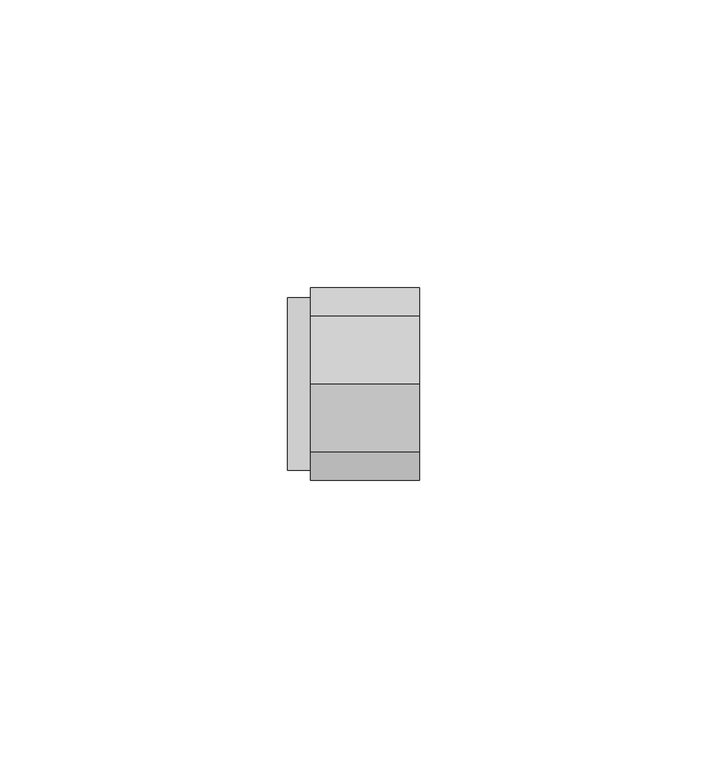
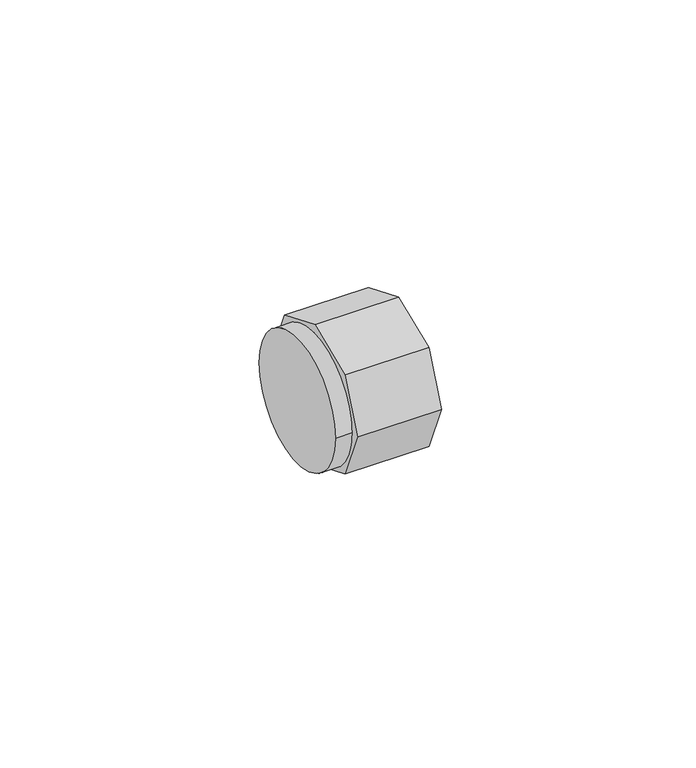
"""IFC4 building model written with IfcOpenShell, lengths in millimetres: pipe fitting geometry, REHAU_RAUTITAN_Cap_RX+ : REHAU_RAUTITAN_Cap_RX+."""

import ifcopenshell
import ifcopenshell.guid

model = None  # the IFC model being written
_history = None  # IfcOwnerHistory: only IFC2X3 demands one
_inside = {}  # id of a spatial element -> (the spatial element, [elements in it])
_under = {}  # id of a project, library or spatial element -> (it, [spatial elements below it])
_declared = {}  # id of a project -> (the project, [libraries it declares])
_typed = {}  # id of a type object -> (the type object, [elements of that type])
_made_of = {}  # id of a material, layer set ... -> (it, [elements and type objects made of it])


def new_model(schema):
    """Start an empty IFC model of exactly this schema.

    Asked for "IFC4X3", IfcOpenShell would pick the latest addendum, in which some entities
    have other attributes; the version numbers below select the first issue.
    IFC2X3 requires an IfcOwnerHistory on every rooted entity: one is made here for all.
    """
    global model, _history
    if schema == "IFC4X3":
        model = ifcopenshell.file(schema_version=(4, 3, 0, 0))
    else:
        model = ifcopenshell.file(schema=schema)
    _inside.clear()
    _under.clear()
    _declared.clear()
    _typed.clear()
    _made_of.clear()
    _history = None
    if model.schema == "IFC2X3":
        org = make("IfcOrganization", Name="unknown")
        user = make(
            "IfcPersonAndOrganization",
            ThePerson=make("IfcPerson", FamilyName="unknown"),
            TheOrganization=org,
        )
        app = make(
            "IfcApplication",
            ApplicationDeveloper=org,
            Version="unknown",
            ApplicationFullName="unknown",
            ApplicationIdentifier="unknown",
        )
        _history = make(
            "IfcOwnerHistory",
            OwningUser=user,
            OwningApplication=app,
            ChangeAction="ADDED",
            CreationDate=0,
        )
    return model


def make(cls, **values):
    """One entity of the class cls with the attributes given. An attribute that is None is left unset."""
    return model.create_entity(
        cls, **{name: value for name, value in values.items() if value is not None}
    )


def rooted(cls, **values):
    """An entity with a GlobalId (a new one), such as an element, a storey or a relation."""
    return make(cls, GlobalId=ifcopenshell.guid.new(), OwnerHistory=_history, **values)


def si_unit(unit_type, name, prefix=None):
    """IfcSIUnit, for example si_unit("LENGTHUNIT", "METRE", prefix="MILLI")."""
    return make("IfcSIUnit", UnitType=unit_type, Prefix=prefix, Name=name)


def assignment(units):
    """IfcUnitAssignment: the units of a project."""
    return None if units is None else make("IfcUnitAssignment", Units=units)


def point(xyz):
    """IfcCartesianPoint."""
    return None if xyz is None else make("IfcCartesianPoint", Coordinates=xyz)


def direction(xyz):
    """IfcDirection."""
    return None if xyz is None else make("IfcDirection", DirectionRatios=xyz)


def frame(location, z_axis=None, x_axis=None):
    """IfcAxis2Placement3D, a coordinate frame: its origin and axes. An axis left out is left unset."""
    return make(
        "IfcAxis2Placement3D",
        Location=point(location),
        Axis=direction(z_axis),
        RefDirection=direction(x_axis),
    )


def frame_2d(location, x_axis=None):
    """IfcAxis2Placement2D, a coordinate frame in the plane: its origin and x axis."""
    return make(
        "IfcAxis2Placement2D", Location=point(location), RefDirection=direction(x_axis)
    )


def origin():
    """The frame at (0, 0, 0) with its axes left unset."""
    return frame((0.0, 0.0, 0.0))


def origin_2d():
    """The frame at (0, 0) in the plane with its x axis left unset."""
    return frame_2d((0.0, 0.0))


def place(relative_to, where):
    """IfcLocalPlacement: puts the frame where relative to a parent placement (None: the world)."""
    return make(
        "IfcLocalPlacement", PlacementRelTo=relative_to, RelativePlacement=where
    )


def context(
    kind, dimensions, precision=None, world=None, true_north=None, identifier=None
):
    """IfcGeometricRepresentationContext, for example the 3D "Model" context."""
    return make(
        "IfcGeometricRepresentationContext",
        ContextIdentifier=identifier,
        ContextType=kind,
        CoordinateSpaceDimension=dimensions,
        Precision=precision,
        WorldCoordinateSystem=world,
        TrueNorth=true_north,
    )


def project(units=None, contexts=None):
    """IfcProject with its units and contexts."""
    return rooted(
        "IfcProject",
        Name="project",
        RepresentationContexts=contexts,
        UnitsInContext=assignment(units),
    )


def spatial(cls, under=None, at=None, **own):
    """A site, building, storey or space (cls), placed at a placement, below another one or the project."""
    s = rooted(cls, ObjectPlacement=at, **own)
    if under is not None:
        _under.setdefault(under.id(), (under, []))[1].append(s)
    return s


def polyline(points):
    """IfcPolyline through the points."""
    return make("IfcPolyline", Points=[point(p) for p in points])


def circle_curve(where, radius):
    """IfcCircle in the frame where."""
    return make("IfcCircle", Position=where, Radius=radius)


def trimmed(basis, trim1, trim2, sense, master):
    """IfcTrimmedCurve: the piece of a basis curve between two trims."""
    return make(
        "IfcTrimmedCurve",
        BasisCurve=basis,
        Trim1=trim1,
        Trim2=trim2,
        SenseAgreement=sense,
        MasterRepresentation=master,
    )


def segment(curve, same_sense, transition):
    """IfcCompositeCurveSegment."""
    return make(
        "IfcCompositeCurveSegment",
        Transition=transition,
        SameSense=same_sense,
        ParentCurve=curve,
    )


def composite_curve(segments, self_intersect=None):
    """IfcCompositeCurve: segments joined end to end."""
    return make("IfcCompositeCurve", Segments=segments, SelfIntersect=self_intersect)


def outline(outer, holes=None, kind="AREA"):
    """IfcArbitraryClosedProfileDef: a profile drawn as a closed curve; with holes, ...WithVoids."""
    if holes is None:
        return make("IfcArbitraryClosedProfileDef", ProfileType=kind, OuterCurve=outer)
    return make(
        "IfcArbitraryProfileDefWithVoids",
        ProfileType=kind,
        OuterCurve=outer,
        InnerCurves=holes,
    )


def extrude(swept, where, along, depth):
    """IfcExtrudedAreaSolid: the profile swept, set in the frame where, extruded along a direction by depth."""
    return make(
        "IfcExtrudedAreaSolid",
        SweptArea=swept,
        Position=where,
        ExtrudedDirection=direction(along),
        Depth=depth,
    )


def shape(context_of_items, identifier, shape_type, items):
    """IfcShapeRepresentation: the items that make up one representation, for example the "Body"."""
    return make(
        "IfcShapeRepresentation",
        ContextOfItems=context_of_items,
        RepresentationIdentifier=identifier,
        RepresentationType=shape_type,
        Items=items,
    )


def source(mapping_origin, context_of_items, identifier, shape_type, items):
    """IfcRepresentationMap: a shape defined once, which mapped items show again and again."""
    return make(
        "IfcRepresentationMap",
        MappingOrigin=mapping_origin,
        MappedRepresentation=shape(context_of_items, identifier, shape_type, items),
    )


def transform(
    local_origin,
    x_axis=None,
    y_axis=None,
    z_axis=None,
    scale=None,
    scale2=None,
    scale3=None,
    uniform=True,
):
    """IfcCartesianTransformationOperator3D, or its non-uniform kind. x_axis, y_axis, z_axis: its Axis1, 2, 3."""
    if uniform:
        return make(
            "IfcCartesianTransformationOperator3D",
            Axis1=direction(x_axis),
            Axis2=direction(y_axis),
            LocalOrigin=point(local_origin),
            Scale=scale,
            Axis3=direction(z_axis),
        )
    return make(
        "IfcCartesianTransformationOperator3DnonUniform",
        Axis1=direction(x_axis),
        Axis2=direction(y_axis),
        LocalOrigin=point(local_origin),
        Scale=scale,
        Axis3=direction(z_axis),
        Scale2=scale2,
        Scale3=scale3,
    )


def mapped(mapping_source, mapping_target):
    """IfcMappedItem: shows the shape of a source again, moved by a transform."""
    return make(
        "IfcMappedItem", MappingSource=mapping_source, MappingTarget=mapping_target
    )


def made_of(thing, what):
    """Note that an element or type object is made of a material, layer set ...; save() writes the relation."""
    if what is not None:
        _made_of.setdefault(what.id(), (what, []))[1].append(thing)
    return thing


def element(
    cls,
    number,
    at=None,
    inside=None,
    cuts=None,
    type_object=None,
    material=None,
    context=None,
    identifier="Body",
    shape_type=None,
    held_by="IfcProductDefinitionShape",
    body=None,
    shapes=None,
    **own,
):
    """One element of the class cls, such as IfcWall. Its Tag is "e" and its number.

    at: its placement. inside: the storey or other place that contains it. cuts: it is an
    opening in that element (IfcRelVoidsElement). A single representation is given by context,
    identifier, shape_type and body (its items); several are given by shapes. held_by: the class
    of the entity that holds the representations. save() writes the other relations.
    """
    e = rooted(cls, Tag="e%d" % number, ObjectPlacement=at, **own)
    if body is not None:
        shapes = [shape(context, identifier, shape_type, body)]
    if shapes is not None:
        e.Representation = make(held_by, Representations=shapes)
    if inside is not None:
        _inside.setdefault(inside.id(), (inside, []))[1].append(e)
    if cuts is not None:
        rooted(
            "IfcRelVoidsElement", RelatingBuildingElement=cuts, RelatedOpeningElement=e
        )
    if type_object is not None:
        _typed.setdefault(type_object.id(), (type_object, []))[1].append(e)
    return made_of(e, material)


def aggregate(whole, parts):
    """IfcRelAggregates: a whole, such as a stair, and the parts it consists of."""
    return rooted("IfcRelAggregates", RelatingObject=whole, RelatedObjects=parts)


def save(model, path):
    """Write the relations noted so far, then the file.

    IfcRelAggregates (storeys below a building ...), IfcRelContainedInSpatialStructure (elements
    in a storey), IfcRelDefinesByType, IfcRelAssociatesMaterial and IfcRelDeclares: one each for
    every whole, place, type object, material and project.
    """
    for whole, parts in _under.values():
        aggregate(whole, parts)
    for where, things in _inside.values():
        rooted(
            "IfcRelContainedInSpatialStructure",
            RelatedElements=things,
            RelatingStructure=where,
        )
    for kind, things in _typed.values():
        rooted("IfcRelDefinesByType", RelatedObjects=things, RelatingType=kind)
    for what, things in _made_of.values():
        rooted("IfcRelAssociatesMaterial", RelatedObjects=things, RelatingMaterial=what)
    for by, libraries in _declared.values():
        rooted("IfcRelDeclares", RelatingContext=by, RelatedDefinitions=libraries)
    model.write(path)


def pipe_fitting_8af3721d(model_context):
    return source(origin(), model_context, "Body", "SweptSolid", [
        extrude(outline(polyline([(-11.8631864, 11.8631864), (0.0, 16.7770791), (11.8631864, 11.8631864), (16.7770791, 0.0), (11.8631864, -11.8631864), (0.0, -16.7770791), (-11.8631864, -11.8631864), (-16.7770791, 0.0), (-11.8631864, 11.8631864)]), holes=[composite_curve([segment(trimmed(circle_curve(origin_2d(), 13.2), [point((-13.2, 0.0))], [point((13.2, 0.0))], True, "CARTESIAN"), True, "CONTINUOUS"), segment(trimmed(circle_curve(origin_2d(), 13.2), [point((13.2, 0.0))], [point((-13.2, 0.0))], True, "CARTESIAN"), True, "CONTINUOUS")], self_intersect=False)]), frame((-7.5, 0.0, 0.0), z_axis=(1.0, 0.0, 0.0), x_axis=(0.0, 1.0, 0.0)), (0.0, 0.0, 1.0), 19.0),
        extrude(outline(composite_curve([segment(trimmed(circle_curve(origin_2d(), 15.0), [point((-15.0, 0.0))], [point((15.0, 0.0))], False, "CARTESIAN"), True, "CONTINUOUS"), segment(trimmed(circle_curve(origin_2d(), 15.0), [point((15.0, 0.0))], [point((-15.0, 0.0))], False, "CARTESIAN"), True, "CONTINUOUS")], self_intersect=False)), frame((-11.5, 0.0, 0.0), z_axis=(1.0, 0.0, 0.0), x_axis=(0.0, 1.0, 0.0)), (0.0, 0.0, 1.0), 4.0),
    ])


if __name__ == "__main__":
    model = new_model("IFC4")
    model_context = context("Model", 3, world=origin())
    ifc_project = project(units=[si_unit("LENGTHUNIT", "METRE", prefix="MILLI")], contexts=[model_context])
    site = spatial("IfcSite", under=ifc_project)
    building = spatial("IfcBuilding", under=site)
    placement = place(None, origin())
    pipe_fitting_shape = pipe_fitting_8af3721d(model_context)
    element("IfcPipeFitting", 1, ObjectType="REHAU_RAUTITAN_Cap_RX+ : REHAU_RAUTITAN_Cap_RX+", at=placement, inside=building, context=model_context, shape_type="MappedRepresentation", body=[
        mapped(pipe_fitting_shape, transform((0.0, 0.0, 0.0), x_axis=(1.0, 0.0, 0.0), y_axis=(0.0, 1.0, 0.0), z_axis=(0.0, 0.0, 1.0))),
    ])
    save(model, "model.ifc")
